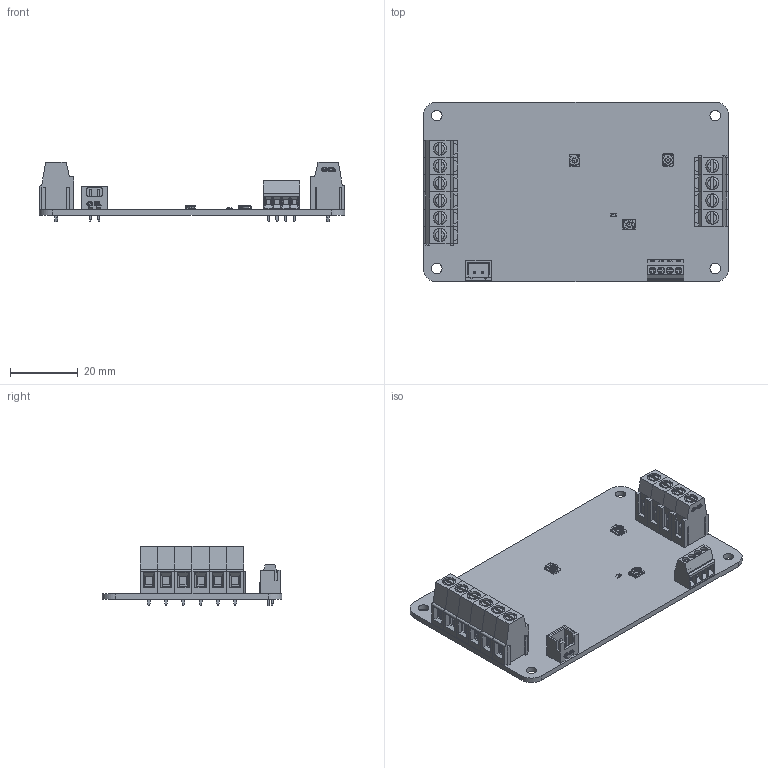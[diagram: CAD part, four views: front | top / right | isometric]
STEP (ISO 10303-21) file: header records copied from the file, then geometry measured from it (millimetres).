
FILE_DESCRIPTION(/* description */ ('Designed by EasyEDA Pro'),/* implementation_level */ '2;1');
FILE_NAME(/* name */ 'PowerPal_3D_01-06-2025.step',/* time_stamp */ '2026-01-06T10:35:47-05:00',/* author */ (''),/* organization */ (''),/* preprocessor_version */ 'ST-DEVELOPER v20.1',/* originating_system */ 'Autodesk Translation Framework v14.21.0.0',/* authorisation */ '');
FILE_SCHEMA (('AUTOMOTIVE_DESIGN { 1 0 10303 214 3 1 1 }'));
Products named in the file (12): EasyEDA PCB Model~4ud7; Board~4ud7; J5~CONN-TH_4P-P2.54_MX128-2.54-GN01-04P-CU-Y-A~CONN-TH_4P-P2.54_MX128
-2.54-GN01-04P-CU-Y-A~4ud7; CONN-TH_4P-P2.54_MX128-2.54-GN01-04P-CU-Y-A~CONN-TH_4P-P2.54_MX128-2.
54-GN01-04P-CU-Y-A~4ud7; R24~RES-ADJ-SMD_TC33X-2-104E~RES-ADJ-SMD_TC33X-2-104E~4ud7; RES-ADJ-SMD_TC33X-2-104E~RES-ADJ-SMD_TC33X-2-104E~4ud7; D6~LED0603-RD_GREEN~LED0603-RD_GREEN~4ud7; LED0603-RD_GREEN~LED0603-RD_GREEN~4ud7; J4~CONN-TH_2P-P2.50_XH-2A_3045048~CONN-TH_2P-P2.50_XH-2A_3045048~4ud7; CONN-TH_2P-P2.50_XH-2A_3045048~CONN-TH_2P-P2.50_XH-2A_3045048~4ud7; J1~CONN-TH_2P-P5.08_DB128L-5.08-2P~CONN-TH_2P_L10.5-W10.2-P5.08~4ud7; CONN-TH_2P-P5.08_DB128L-5.08-2P~CONN-TH_2P_L10.5-W10.2-P5.08~4ud7
Assembly tree (17 placements, depth 3):
  EasyEDA PCB Model~4ud7
    Board~4ud7
    J5~CONN-TH_4P-P2.54_MX128-2.54-GN01-04P-CU-Y-A~CONN-TH_4P-P2.54_MX128
-2.54-GN01-04P-CU-Y-A~4ud7
      CONN-TH_4P-P2.54_MX128-2.54-GN01-04P-CU-Y-A~CONN-TH_4P-P2.54_MX128-2.
54-GN01-04P-CU-Y-A~4ud7
    R24~RES-ADJ-SMD_TC33X-2-104E~RES-ADJ-SMD_TC33X-2-104E~4ud7  x3
      RES-ADJ-SMD_TC33X-2-104E~RES-ADJ-SMD_TC33X-2-104E~4ud7
    D6~LED0603-RD_GREEN~LED0603-RD_GREEN~4ud7
      LED0603-RD_GREEN~LED0603-RD_GREEN~4ud7
    J4~CONN-TH_2P-P2.50_XH-2A_3045048~CONN-TH_2P-P2.50_XH-2A_3045048~4ud7
      CONN-TH_2P-P2.50_XH-2A_3045048~CONN-TH_2P-P2.50_XH-2A_3045048~4ud7
    J1~CONN-TH_2P-P5.08_DB128L-5.08-2P~CONN-TH_2P_L10.5-W10.2-P5.08~4ud7  x5
      CONN-TH_2P-P5.08_DB128L-5.08-2P~CONN-TH_2P_L10.5-W10.2-P5.08~4ud7
Bounding box: 89.97 x 52.97 x 17.5 mm (x, y, z)
Volume: 12259.1 mm3; surface area: 23481.8 mm2
Topology: 61 solids, 61 shells, 5282 faces, 14506 edges, 9613 vertices
Faces by surface type: plane 3863, bspline 970, cylinder 377, torus 55, cone 17
Full cylindrical faces by diameter (mm): 0.103 x1, 0.204 x3, 0.3 x3, 0.5 x3, 1.1 x2, 1.3 x4, 1.5 x8, 1.6 x10, 1.7 x4, 2 x14, 2.1 x4, 2.4 x10, 3.1 x4, 3.8 x10, 3.9 x20
Entity records: 69619 total; most frequent: CARTESIAN_POINT 17134, ORIENTED_EDGE 11036, DIRECTION 9157, EDGE_CURVE 5518, LINE 4305, VECTOR 4305, VERTEX_POINT 3689, AXIS2_PLACEMENT_3D 2426
